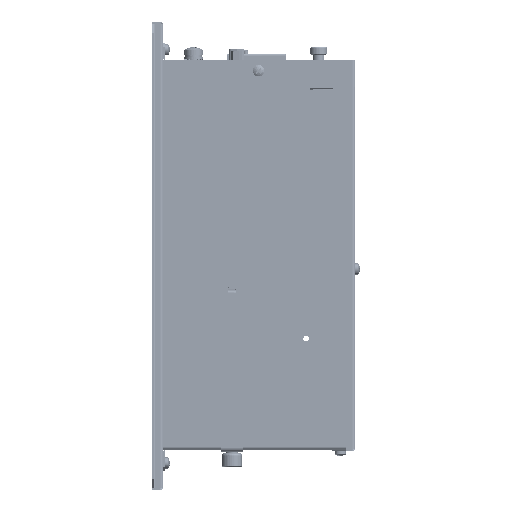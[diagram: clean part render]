
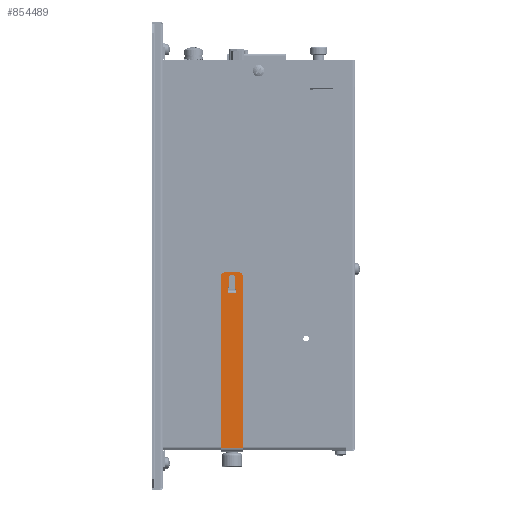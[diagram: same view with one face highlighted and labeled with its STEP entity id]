
A CAD part, left-side view. The second image highlights one B-rep face of the part: STEP entity #854489.
In plain terms, the highlighted planar face has unit normal (-1, 0, 0) as drawn and (0, 0, 1) by its records, which use the part's own axes.
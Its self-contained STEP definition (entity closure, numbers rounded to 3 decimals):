
#6720 = VERTEX_POINT ( 'NONE', #605005 ) ;
#21112 = VERTEX_POINT ( 'NONE', #153376 ) ;
#23525 = CARTESIAN_POINT ( 'NONE',  ( -44.25, 6., 1. ) ) ;
#30247 = VERTEX_POINT ( 'NONE', #323517 ) ;
#42345 = ORIENTED_EDGE ( 'NONE', *, *, #231310, .T. ) ;
#64309 = EDGE_LOOP ( 'NONE', ( #42345, #669597, #509023, #174825, #775020, #562607 ) ) ;
#92721 = CARTESIAN_POINT ( 'NONE',  ( -36.126, 2., 1. ) ) ;
#103296 = LINE ( 'NONE', #743862, #451892 ) ;
#129273 = DIRECTION ( 'NONE',  ( -0.998, 0.062, 0. ) ) ;
#129627 = CIRCLE ( 'NONE', #419944, 3. ) ;
#144812 = DIRECTION ( 'NONE',  ( 0., -1., 0. ) ) ;
#147048 = CARTESIAN_POINT ( 'NONE',  ( -47.25, 3., 1. ) ) ;
#149078 = LINE ( 'NONE', #343934, #701955 ) ;
#151164 = DIRECTION ( 'NONE',  ( 0.998, 0.062, 0. ) ) ;
#153376 = CARTESIAN_POINT ( 'NONE',  ( 45.25, 6., 1. ) ) ;
#157461 = EDGE_CURVE ( 'NONE', #6720, #495558, #284267, .T. ) ;
#167741 = ORIENTED_EDGE ( 'NONE', *, *, #703960, .T. ) ;
#174825 = ORIENTED_EDGE ( 'NONE', *, *, #258101, .F. ) ;
#178151 = VERTEX_POINT ( 'NONE', #23525 ) ;
#182651 = CARTESIAN_POINT ( 'NONE',  ( -36.126, 2., 1. ) ) ;
#184327 = CARTESIAN_POINT ( 'NONE',  ( -47.126, -1.5, 1. ) ) ;
#197491 = AXIS2_PLACEMENT_3D ( 'NONE', #668422, #850270, #396110 ) ;
#201459 = VECTOR ( 'NONE', #410323, 1000. ) ;
#228136 = CARTESIAN_POINT ( 'NONE',  ( -44.25, -6., 1. ) ) ;
#229311 = VERTEX_POINT ( 'NONE', #264527 ) ;
#231310 = EDGE_CURVE ( 'NONE', #388228, #229311, #832012, .T. ) ;
#253447 = CARTESIAN_POINT ( 'NONE',  ( -44.126, -1.5, 1. ) ) ;
#258101 = EDGE_CURVE ( 'NONE', #21112, #769641, #149078, .T. ) ;
#258105 = CARTESIAN_POINT ( 'NONE',  ( -44.25, -6., 1. ) ) ;
#264527 = CARTESIAN_POINT ( 'NONE',  ( -47.25, -3., 1. ) ) ;
#284267 =( BOUNDED_CURVE ( )  B_SPLINE_CURVE ( 3, ( #253447, #184327, #768483, #651467 ),
 .UNSPECIFIED., .F., .F. ) 
 B_SPLINE_CURVE_WITH_KNOTS ( ( 4, 4 ),
 ( 3.477, 6.619 ),
 .UNSPECIFIED. ) 
 CURVE ( )  GEOMETRIC_REPRESENTATION_ITEM ( )  RATIONAL_B_SPLINE_CURVE ( ( 1., 0.333, 0.333, 1. ) ) 
 REPRESENTATION_ITEM ( '' )  );
#323517 = CARTESIAN_POINT ( 'NONE',  ( -36.126, -2., 1. ) ) ;
#324025 = CARTESIAN_POINT ( 'NONE',  ( -44.126, 1.5, 1. ) ) ;
#328325 = LINE ( 'NONE', #332572, #411253 ) ;
#332572 = CARTESIAN_POINT ( 'NONE',  ( -36.126, -2., 1. ) ) ;
#343934 = CARTESIAN_POINT ( 'NONE',  ( 45.25, 6., 1. ) ) ;
#345270 = EDGE_CURVE ( 'NONE', #30247, #6720, #328325, .T. ) ;
#388228 = VERTEX_POINT ( 'NONE', #147048 ) ;
#394534 = DIRECTION ( 'NONE',  ( 0., -1., 0. ) ) ;
#396110 = DIRECTION ( 'NONE',  ( 0., 1., 0. ) ) ;
#401810 = VECTOR ( 'NONE', #394534, 1000. ) ;
#410323 = DIRECTION ( 'NONE',  ( -1., 0., 0. ) ) ;
#411253 = VECTOR ( 'NONE', #129273, 1000. ) ;
#419944 = AXIS2_PLACEMENT_3D ( 'NONE', #578242, #841957, #565469 ) ;
#425697 = CARTESIAN_POINT ( 'NONE',  ( -47.25, 3., 1. ) ) ;
#451892 = VECTOR ( 'NONE', #151164, 1000. ) ;
#454765 = ORIENTED_EDGE ( 'NONE', *, *, #614622, .T. ) ;
#466550 = FACE_OUTER_BOUND ( 'NONE', #64309, .T. ) ;
#475239 = CARTESIAN_POINT ( 'NONE',  ( 45.25, 6., 1. ) ) ;
#479310 = VERTEX_POINT ( 'NONE', #228136 ) ;
#480441 = EDGE_CURVE ( 'NONE', #479310, #769641, #785852, .T. ) ;
#483523 = CARTESIAN_POINT ( 'NONE',  ( 0., 0., 1. ) ) ;
#495558 = VERTEX_POINT ( 'NONE', #324025 ) ;
#504126 = EDGE_LOOP ( 'NONE', ( #582141, #504720, #167741, #454765 ) ) ;
#504720 = ORIENTED_EDGE ( 'NONE', *, *, #157461, .T. ) ;
#509023 = ORIENTED_EDGE ( 'NONE', *, *, #480441, .T. ) ;
#511563 = LINE ( 'NONE', #182651, #401810 ) ;
#515636 = LINE ( 'NONE', #475239, #201459 ) ;
#528804 = VECTOR ( 'NONE', #821980, 1000. ) ;
#562607 = ORIENTED_EDGE ( 'NONE', *, *, #671693, .T. ) ;
#565469 = DIRECTION ( 'NONE',  ( -1., 0., 0. ) ) ;
#578242 = CARTESIAN_POINT ( 'NONE',  ( -44.25, -3., 1. ) ) ;
#582141 = ORIENTED_EDGE ( 'NONE', *, *, #345270, .T. ) ;
#605005 = CARTESIAN_POINT ( 'NONE',  ( -44.126, -1.5, 1. ) ) ;
#613236 = FACE_BOUND ( 'NONE', #504126, .T. ) ;
#614622 = EDGE_CURVE ( 'NONE', #791961, #30247, #511563, .T. ) ;
#651467 = CARTESIAN_POINT ( 'NONE',  ( -44.126, 1.5, 1. ) ) ;
#653330 = CIRCLE ( 'NONE', #197491, 3. ) ;
#661166 = DIRECTION ( 'NONE',  ( 1., 0., 0. ) ) ;
#666981 = VECTOR ( 'NONE', #754362, 1000. ) ;
#668422 = CARTESIAN_POINT ( 'NONE',  ( -44.25, 3., 1. ) ) ;
#669597 = ORIENTED_EDGE ( 'NONE', *, *, #831058, .T. ) ;
#671693 = EDGE_CURVE ( 'NONE', #178151, #388228, #653330, .T. ) ;
#701955 = VECTOR ( 'NONE', #144812, 1000. ) ;
#703960 = EDGE_CURVE ( 'NONE', #495558, #791961, #103296, .T. ) ;
#730346 = PLANE ( 'NONE',  #768116 ) ;
#743862 = CARTESIAN_POINT ( 'NONE',  ( -44.126, 1.5, 1. ) ) ;
#747313 = DIRECTION ( 'NONE',  ( 0., 0., 1. ) ) ;
#752098 = CARTESIAN_POINT ( 'NONE',  ( 45.25, -6., 1. ) ) ;
#754362 = DIRECTION ( 'NONE',  ( 0., -1., 0. ) ) ;
#755951 = EDGE_CURVE ( 'NONE', #21112, #178151, #515636, .T. ) ;
#768116 = AXIS2_PLACEMENT_3D ( 'NONE', #483523, #747313, #661166 ) ;
#768483 = CARTESIAN_POINT ( 'NONE',  ( -47.126, 1.5, 1. ) ) ;
#769641 = VERTEX_POINT ( 'NONE', #752098 ) ;
#775020 = ORIENTED_EDGE ( 'NONE', *, *, #755951, .T. ) ;
#785852 = LINE ( 'NONE', #258105, #528804 ) ;
#791961 = VERTEX_POINT ( 'NONE', #92721 ) ;
#821980 = DIRECTION ( 'NONE',  ( 1., 0., 0. ) ) ;
#831058 = EDGE_CURVE ( 'NONE', #229311, #479310, #129627, .T. ) ;
#832012 = LINE ( 'NONE', #425697, #666981 ) ;
#841957 = DIRECTION ( 'NONE',  ( 0., 0., 1. ) ) ;
#850270 = DIRECTION ( 'NONE',  ( 0., 0., 1. ) ) ;
#854489 = ADVANCED_FACE ( 'NONE', ( #466550, #613236 ), #730346, .T. ) ;
